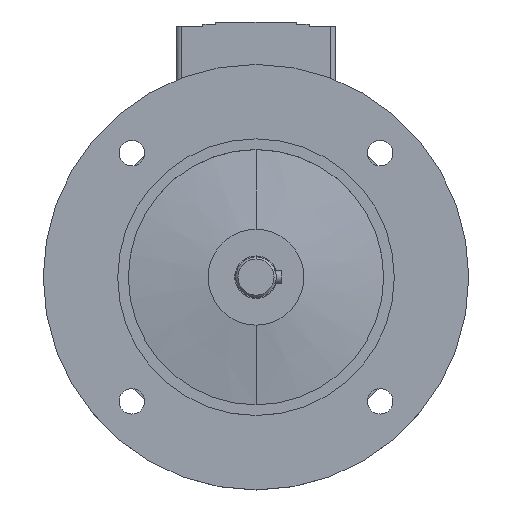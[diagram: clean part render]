
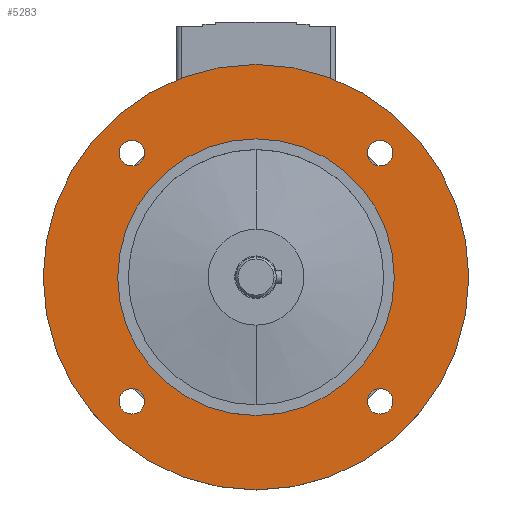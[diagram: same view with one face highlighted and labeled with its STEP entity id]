
A CAD part, top view. The second image highlights one B-rep face of the part: STEP entity #5283.
In plain terms, the highlighted planar face has unit normal (0, 0, 1).
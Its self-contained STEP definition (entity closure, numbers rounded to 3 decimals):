
#1104=CARTESIAN_POINT('',(-58.336,58.336,23.5));
#1105=DIRECTION('',(0.,0.,-1.));
#1106=DIRECTION('',(-1.,0.,0.));
#1107=AXIS2_PLACEMENT_3D('',#1104,#1105,#1106);
#1109=CARTESIAN_POINT('',(-58.336,58.336,23.5));
#1110=DIRECTION('',(0.,0.,-1.));
#1111=DIRECTION('',(1.,0.,0.));
#1112=AXIS2_PLACEMENT_3D('',#1109,#1110,#1111);
#1114=CARTESIAN_POINT('',(-58.336,-58.336,23.5));
#1115=DIRECTION('',(0.,0.,-1.));
#1116=DIRECTION('',(-1.,0.,0.));
#1117=AXIS2_PLACEMENT_3D('',#1114,#1115,#1116);
#1119=CARTESIAN_POINT('',(-58.336,-58.336,23.5));
#1120=DIRECTION('',(0.,0.,-1.));
#1121=DIRECTION('',(1.,0.,0.));
#1122=AXIS2_PLACEMENT_3D('',#1119,#1120,#1121);
#1124=CARTESIAN_POINT('',(58.336,-58.336,23.5));
#1125=DIRECTION('',(0.,0.,-1.));
#1126=DIRECTION('',(-1.,0.,0.));
#1127=AXIS2_PLACEMENT_3D('',#1124,#1125,#1126);
#1129=CARTESIAN_POINT('',(58.336,-58.336,23.5));
#1130=DIRECTION('',(0.,0.,-1.));
#1131=DIRECTION('',(1.,0.,0.));
#1132=AXIS2_PLACEMENT_3D('',#1129,#1130,#1131);
#1134=CARTESIAN_POINT('',(0.,0.,23.5));
#1135=DIRECTION('',(0.,0.,1.));
#1136=DIRECTION('',(0.,1.,0.));
#1137=AXIS2_PLACEMENT_3D('',#1134,#1135,#1136);
#1139=CARTESIAN_POINT('',(0.,0.,23.5));
#1140=DIRECTION('',(0.,0.,-1.));
#1141=DIRECTION('',(0.,1.,0.));
#1142=AXIS2_PLACEMENT_3D('',#1139,#1140,#1141);
#1144=CARTESIAN_POINT('',(58.336,58.336,23.5));
#1145=DIRECTION('',(0.,0.,-1.));
#1146=DIRECTION('',(-1.,0.,0.));
#1147=AXIS2_PLACEMENT_3D('',#1144,#1145,#1146);
#1149=CARTESIAN_POINT('',(58.336,58.336,23.5));
#1150=DIRECTION('',(0.,0.,-1.));
#1151=DIRECTION('',(1.,0.,0.));
#1152=AXIS2_PLACEMENT_3D('',#1149,#1150,#1151);
#1174=CARTESIAN_POINT('',(0.,0.,23.5));
#1175=DIRECTION('',(0.,0.,-1.));
#1176=DIRECTION('',(0.,1.,0.));
#1177=AXIS2_PLACEMENT_3D('',#1174,#1175,#1176);
#1187=CARTESIAN_POINT('',(0.,0.,23.5));
#1188=DIRECTION('',(0.,0.,1.));
#1189=DIRECTION('',(0.,1.,0.));
#1190=AXIS2_PLACEMENT_3D('',#1187,#1188,#1189);
#2945=CARTESIAN_POINT('',(0.,100.,23.5));
#2947=VERTEX_POINT('',#2945);
#2948=CARTESIAN_POINT('',(0.,65.,23.5));
#2950=VERTEX_POINT('',#2948);
#2953=CARTESIAN_POINT('',(0.,-100.,23.5));
#2955=VERTEX_POINT('',#2953);
#2956=CARTESIAN_POINT('',(0.,-65.,23.5));
#2958=VERTEX_POINT('',#2956);
#2964=CARTESIAN_POINT('',(52.336,58.336,23.5));
#2965=CARTESIAN_POINT('',(64.336,58.336,23.5));
#2966=VERTEX_POINT('',#2964);
#2967=VERTEX_POINT('',#2965);
#2972=CARTESIAN_POINT('',(52.336,-58.336,23.5));
#2973=CARTESIAN_POINT('',(64.336,-58.336,23.5));
#2974=VERTEX_POINT('',#2972);
#2975=VERTEX_POINT('',#2973);
#2980=CARTESIAN_POINT('',(-64.336,-58.336,23.5));
#2981=CARTESIAN_POINT('',(-52.336,-58.336,23.5));
#2982=VERTEX_POINT('',#2980);
#2983=VERTEX_POINT('',#2981);
#2988=CARTESIAN_POINT('',(-64.336,58.336,23.5));
#2989=CARTESIAN_POINT('',(-52.336,58.336,23.5));
#2990=VERTEX_POINT('',#2988);
#2991=VERTEX_POINT('',#2989);
#5243=CARTESIAN_POINT('',(0.,0.,23.5));
#5244=DIRECTION('',(0.,0.,-1.));
#5245=DIRECTION('',(0.,-1.,0.));
#5246=AXIS2_PLACEMENT_3D('',#5243,#5244,#5245);
#5247=PLANE('',#5246);
#5249=ORIENTED_EDGE('',*,*,#5248,.F.);
#5251=ORIENTED_EDGE('',*,*,#5250,.T.);
#5252=EDGE_LOOP('',(#5249,#5251));
#5253=FACE_OUTER_BOUND('',#5252,.F.);
#5254=ORIENTED_EDGE('',*,*,#5233,.F.);
#5256=ORIENTED_EDGE('',*,*,#5255,.F.);
#5257=EDGE_LOOP('',(#5254,#5256));
#5258=FACE_BOUND('',#5257,.F.);
#5260=ORIENTED_EDGE('',*,*,#5259,.F.);
#5262=ORIENTED_EDGE('',*,*,#5261,.F.);
#5263=EDGE_LOOP('',(#5260,#5262));
#5264=FACE_BOUND('',#5263,.F.);
#5266=ORIENTED_EDGE('',*,*,#5265,.F.);
#5268=ORIENTED_EDGE('',*,*,#5267,.F.);
#5269=EDGE_LOOP('',(#5266,#5268));
#5270=FACE_BOUND('',#5269,.F.);
#5272=ORIENTED_EDGE('',*,*,#5271,.F.);
#5274=ORIENTED_EDGE('',*,*,#5273,.T.);
#5275=EDGE_LOOP('',(#5272,#5274));
#5276=FACE_BOUND('',#5275,.F.);
#5278=ORIENTED_EDGE('',*,*,#5277,.F.);
#5280=ORIENTED_EDGE('',*,*,#5279,.F.);
#5281=EDGE_LOOP('',(#5278,#5280));
#5282=FACE_BOUND('',#5281,.F.);
#5283=ADVANCED_FACE('',(#5253,#5258,#5264,#5270,#5276,#5282),#5247,.F.);
#1108=CIRCLE('',#1107,6.);
#1113=CIRCLE('',#1112,6.);
#1118=CIRCLE('',#1117,6.);
#1123=CIRCLE('',#1122,6.);
#1128=CIRCLE('',#1127,6.);
#1133=CIRCLE('',#1132,6.);
#1138=CIRCLE('',#1137,100.);
#1143=CIRCLE('',#1142,100.);
#1148=CIRCLE('',#1147,6.);
#1153=CIRCLE('',#1152,6.);
#1178=CIRCLE('',#1177,65.);
#1191=CIRCLE('',#1190,65.);
#5233=EDGE_CURVE('',#2990,#2991,#1108,.T.);
#5248=EDGE_CURVE('',#2947,#2955,#1138,.T.);
#5250=EDGE_CURVE('',#2947,#2955,#1143,.T.);
#5255=EDGE_CURVE('',#2991,#2990,#1113,.T.);
#5259=EDGE_CURVE('',#2982,#2983,#1118,.T.);
#5261=EDGE_CURVE('',#2983,#2982,#1123,.T.);
#5265=EDGE_CURVE('',#2974,#2975,#1128,.T.);
#5267=EDGE_CURVE('',#2975,#2974,#1133,.T.);
#5271=EDGE_CURVE('',#2950,#2958,#1178,.T.);
#5273=EDGE_CURVE('',#2950,#2958,#1191,.T.);
#5277=EDGE_CURVE('',#2966,#2967,#1148,.T.);
#5279=EDGE_CURVE('',#2967,#2966,#1153,.T.);
